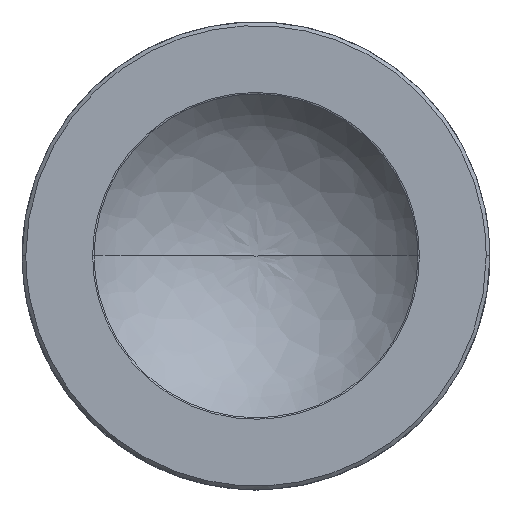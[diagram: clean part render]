
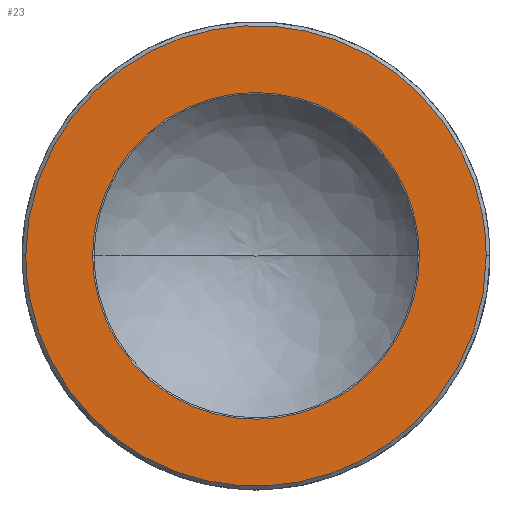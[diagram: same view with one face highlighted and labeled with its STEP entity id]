
A CAD part, top view. The second image highlights one B-rep face of the part: STEP entity #23.
In plain terms, the highlighted planar face has unit normal (0, 0, 1).
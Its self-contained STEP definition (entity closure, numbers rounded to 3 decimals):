
#14=FACE_BOUND($,#56,.T.);
#23=ADVANCED_FACE($,(#39,#14),#198,.T.);
#39=FACE_OUTER_BOUND($,#55,.T.);
#55=EDGE_LOOP($,(#106,#107));
#56=EDGE_LOOP($,(#108,#109));
#106=ORIENTED_EDGE($,*,*,#162,.F.);
#107=ORIENTED_EDGE($,*,*,#163,.F.);
#108=ORIENTED_EDGE($,*,*,#158,.F.);
#109=ORIENTED_EDGE($,*,*,#159,.F.);
#158=EDGE_CURVE($,#189,#190,#237,.T.);
#159=EDGE_CURVE($,#190,#189,#238,.T.);
#162=EDGE_CURVE($,#191,#192,#241,.T.);
#163=EDGE_CURVE($,#192,#191,#242,.T.);
#189=VERTEX_POINT($,#1494);
#190=VERTEX_POINT($,#1495);
#191=VERTEX_POINT($,#1496);
#192=VERTEX_POINT($,#1497);
#198=PLANE($,#338);
#237=(
BOUNDED_CURVE()
B_SPLINE_CURVE(2,(#696,#697,#698,#699,#700),.UNSPECIFIED.,.F.,.F.)
B_SPLINE_CURVE_WITH_KNOTS((3,2,3),(-552.858,-414.643,-276.429),
.UNSPECIFIED.)
CURVE()
GEOMETRIC_REPRESENTATION_ITEM()
RATIONAL_B_SPLINE_CURVE((1.,0.707,1.,0.707,1.))
REPRESENTATION_ITEM($)
);
#238=(
BOUNDED_CURVE()
B_SPLINE_CURVE(2,(#701,#702,#703,#704,#705),.UNSPECIFIED.,.F.,.F.)
B_SPLINE_CURVE_WITH_KNOTS((3,2,3),(-276.429,-138.214,0.),
.UNSPECIFIED.)
CURVE()
GEOMETRIC_REPRESENTATION_ITEM()
RATIONAL_B_SPLINE_CURVE((1.,0.707,1.,0.707,1.))
REPRESENTATION_ITEM($)
);
#241=(
BOUNDED_CURVE()
B_SPLINE_CURVE(2,(#714,#715,#716,#717,#718),.UNSPECIFIED.,.F.,.F.)
B_SPLINE_CURVE_WITH_KNOTS((3,2,3),(389.557,584.336,779.115),
.UNSPECIFIED.)
CURVE()
GEOMETRIC_REPRESENTATION_ITEM()
RATIONAL_B_SPLINE_CURVE((1.,0.707,1.,0.707,1.))
REPRESENTATION_ITEM($)
);
#242=(
BOUNDED_CURVE()
B_SPLINE_CURVE(2,(#719,#720,#721,#722,#723),.UNSPECIFIED.,.F.,.F.)
B_SPLINE_CURVE_WITH_KNOTS((3,2,3),(0.,194.779,389.557),
.UNSPECIFIED.)
CURVE()
GEOMETRIC_REPRESENTATION_ITEM()
RATIONAL_B_SPLINE_CURVE((1.,0.707,1.,0.707,1.))
REPRESENTATION_ITEM($)
);
#338=AXIS2_PLACEMENT_3D($,#1400,#346,$);
#346=DIRECTION($,(0.,0.,1.));
#696=CARTESIAN_POINT($,(-87.99,0.,70.));
#697=CARTESIAN_POINT($,(-87.99,-87.99,70.));
#698=CARTESIAN_POINT($,(0.,-87.99,70.));
#699=CARTESIAN_POINT($,(87.99,-87.99,70.));
#700=CARTESIAN_POINT($,(87.99,0.,70.));
#701=CARTESIAN_POINT($,(87.99,0.,70.));
#702=CARTESIAN_POINT($,(87.99,87.99,70.));
#703=CARTESIAN_POINT($,(0.,87.99,70.));
#704=CARTESIAN_POINT($,(-87.99,87.99,70.));
#705=CARTESIAN_POINT($,(-87.99,0.,70.));
#714=CARTESIAN_POINT($,(124.,0.,70.));
#715=CARTESIAN_POINT($,(124.,-124.,70.));
#716=CARTESIAN_POINT($,(0.,-124.,70.));
#717=CARTESIAN_POINT($,(-124.,-124.,70.));
#718=CARTESIAN_POINT($,(-124.,0.,70.));
#719=CARTESIAN_POINT($,(-124.,0.,70.));
#720=CARTESIAN_POINT($,(-124.,124.,70.));
#721=CARTESIAN_POINT($,(0.,124.,70.));
#722=CARTESIAN_POINT($,(124.,124.,70.));
#723=CARTESIAN_POINT($,(124.,0.,70.));
#1400=CARTESIAN_POINT($,(126.48,-126.48,70.));
#1494=CARTESIAN_POINT($,(-87.99,0.,70.));
#1495=CARTESIAN_POINT($,(87.99,0.,70.));
#1496=CARTESIAN_POINT($,(124.,0.,70.));
#1497=CARTESIAN_POINT($,(-124.,0.,70.));
